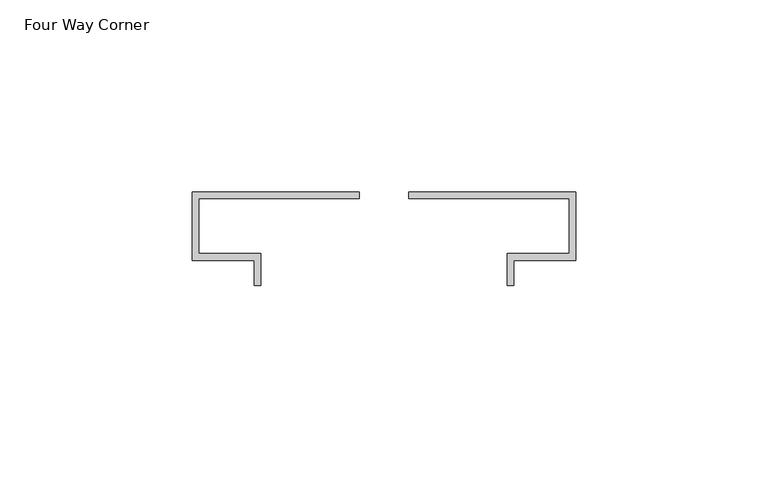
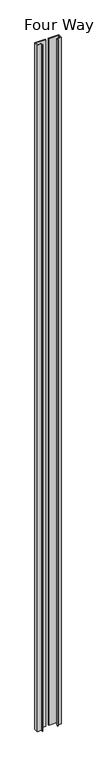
"""IFC4 building model written with IfcOpenShell, lengths in millimetres: proxy geometry, Connection-Corner-Teknion-OptosLP-Four_Way_FZCA4B_B : Four Way Corner."""

from ifc_helpers import new_model, si_unit, frame, origin, place, context, project, spatial, polyline, outline, extrude, source, transform, mapped, element, save


def four_way_corner_8f550bc9(model_context):
    return source(origin(), model_context, "Body", "SweptSolid", [
        extrude(outline(polyline([(-50.0224791, 50.00625), (-6.5884791, 50.00625), (-6.5884791, 48.22825), (-48.2444791, 48.22825), (-48.2444791, 33.977026), (-32.1154791, 33.977026), (-32.1154791, 25.595026), (-33.8934791, 25.595026), (-33.8934791, 32.123972), (-50.0224791, 32.123972), (-50.0224791, 50.00625)])), frame((0.0, 0.0, -939.8), z_axis=(0.0, 0.0, 1.0), x_axis=(1.0, 0.0, 0.0)), (0.0, 0.0, 1.0), 3048.0),
        extrude(outline(polyline([(6.3715045, 50.00625), (49.8055045, 50.00625), (49.8055045, 32.199026), (33.6765045, 32.199026), (33.6765045, 25.595026), (31.8985045, 25.595026), (31.8985045, 33.977026), (48.0275045, 33.977026), (48.0275045, 48.22825), (6.3715045, 48.22825), (6.3715045, 50.00625)])), frame((0.0, 0.0, -939.8), z_axis=(0.0, 0.0, 1.0), x_axis=(1.0, 0.0, 0.0)), (0.0, 0.0, 1.0), 3048.0),
    ])


if __name__ == "__main__":
    model = new_model("IFC4")
    model_context = context("Model", 3, world=origin())
    ifc_project = project(units=[si_unit("LENGTHUNIT", "METRE", prefix="MILLI")], contexts=[model_context])
    site = spatial("IfcSite", under=ifc_project)
    building = spatial("IfcBuilding", under=site)
    placement = place(None, origin())
    four_way_corner_shape = four_way_corner_8f550bc9(model_context)
    element("IfcBuildingElementProxy", 1, Name="Connection-Corner-Teknion-OptosLP-Four_Way_FZCA4B_B : Four Way Corner", ObjectType="Connection-Corner-Teknion-OptosLP-Four_Way_FZCA4B_B : Four Way Corner", at=placement, inside=building, context=model_context, shape_type="MappedRepresentation", body=[
        mapped(four_way_corner_shape, transform((0.0, 0.0, 0.0), x_axis=(1.0, 0.0, 0.0), y_axis=(0.0, 1.0, 0.0), z_axis=(0.0, 0.0, 1.0))),
    ])
    save(model, "model.ifc")
